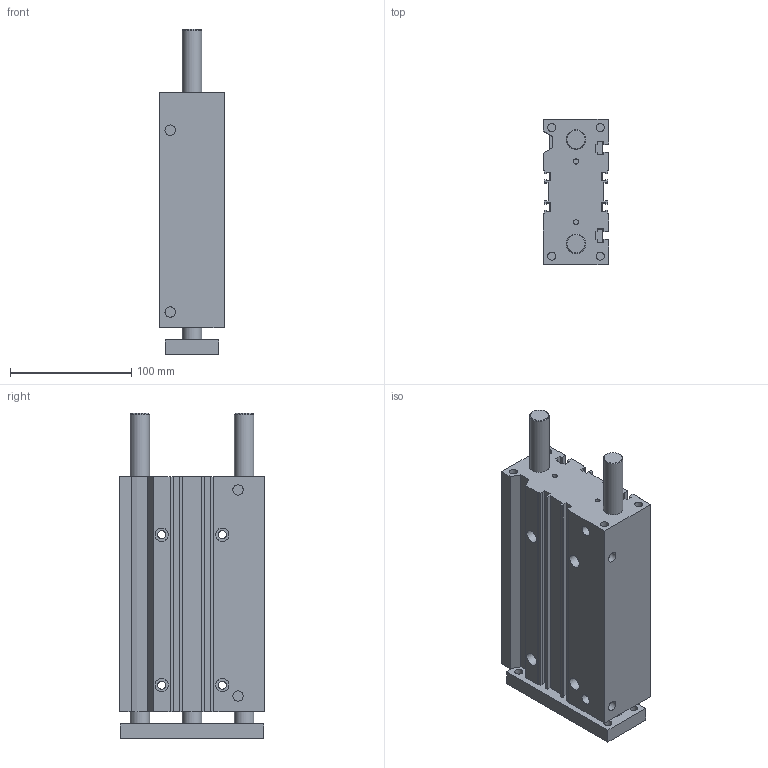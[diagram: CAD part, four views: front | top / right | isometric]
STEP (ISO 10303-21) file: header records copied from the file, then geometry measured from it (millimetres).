
FILE_DESCRIPTION((''),'2;1');
FILE_NAME('I:\Area Tecnica\Disegni\VARIE-3D\Componenti\6100\6100 Ø20-63\6100_##_###_#\6100400150C.stp','2012-01-11T09:11:16',('airolcr1'),(''),'Autodesk Inventor 2012','Autodesk Inventor 2012','');
FILE_SCHEMA(('AUTOMOTIVE_DESIGN { 1 0 10303 214 1 1 1 1 }'));
Length unit declared in the file: millimetre
Products named in the file (3): 6100400150C; CUCORPO Ø40 C150 C; CUPIASTRA Ø40 C150 C
Assembly tree (2 placements, depth 2):
  6100400150C
    CUCORPO Ø40 C150 C
    CUPIASTRA Ø40 C150 C
Bounding box: 54 x 120 x 268 mm (x, y, z)
Volume: 1239912.3 mm3; surface area: 182131.6 mm2
Topology: 2 solids, 2 shells, 166 faces, 417 edges, 277 vertices
Faces by surface type: plane 126, cylinder 38, cone 2
Full cylindrical faces by diameter (mm): 4 x6, 6.647 x8, 6.65 x4, 8.566 x4, 11 x4, 16 x6
Entity records: 5013 total; most frequent: CARTESIAN_POINT 815, DIRECTION 798, ORIENTED_EDGE 750, EDGE_CURVE 375, VECTOR 294, LINE 294, VERTEX_POINT 269, AXIS2_PLACEMENT_3D 252
